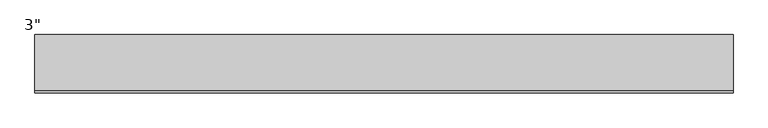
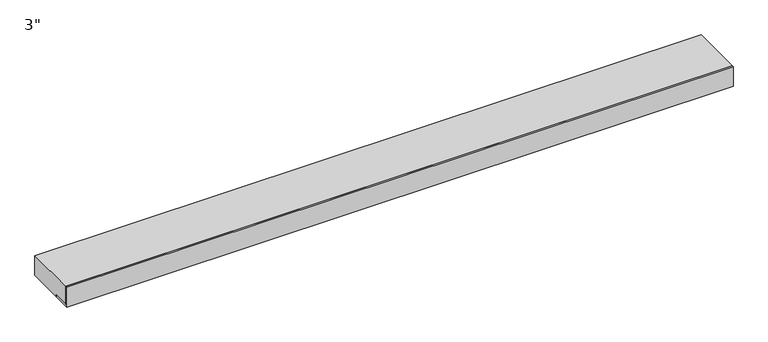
"""IFC4 building model written with IfcOpenShell, lengths in millimetres: proxy geometry."""

from ifc_helpers import new_model, si_unit, frame, origin, place, context, project, spatial, polyline, outline, extrude, source, transform, mapped, element, save


def proxy_4c3b85e5(model_context):
    return source(origin(), model_context, "Body", "SweptSolid", [
        extrude(outline(polyline([(-101.6, 76.2), (-95.25, 76.2), (-95.25, 6.35), (-34.925, 6.35), (-34.925, 0.0), (-101.6, 0.0), (-101.6, 76.2)])), frame((-1219.2, 0.0, 0.0), z_axis=(1.0, 0.0, 0.0), x_axis=(0.0, 1.0, 0.0)), (0.0, 0.0, 1.0), 2438.4),
        extrude(outline(polyline([(101.6, 0.0), (-34.925, 0.0), (-34.925, 6.35), (-95.25, 6.35), (-95.25, 76.2), (101.6, 76.2), (101.6, 0.0)])), frame((-1219.2, 0.0, 0.0), z_axis=(1.0, 0.0, 0.0), x_axis=(0.0, 1.0, 0.0)), (0.0, 0.0, 1.0), 2438.4),
    ])


if __name__ == "__main__":
    model = new_model("IFC4")
    model_context = context("Model", 3, world=origin())
    ifc_project = project(units=[si_unit("LENGTHUNIT", "METRE", prefix="MILLI")], contexts=[model_context])
    site = spatial("IfcSite", under=ifc_project)
    building = spatial("IfcBuilding", under=site)
    placement = place(None, origin())
    proxy_shape = proxy_4c3b85e5(model_context)
    element("IfcBuildingElementProxy", 1, Name="Durabond Generic Model Quantum Select 5-0 Boundary Board : 3\"", ObjectType="Durabond Generic Model Quantum Select 5-0 Boundary Board : 3\"", at=placement, inside=building, context=model_context, shape_type="MappedRepresentation", body=[
        mapped(proxy_shape, transform((0.0, 0.0, 0.0), x_axis=(1.0, 0.0, 0.0), y_axis=(0.0, 1.0, 0.0), z_axis=(0.0, 0.0, 1.0))),
    ])
    save(model, "model.ifc")
